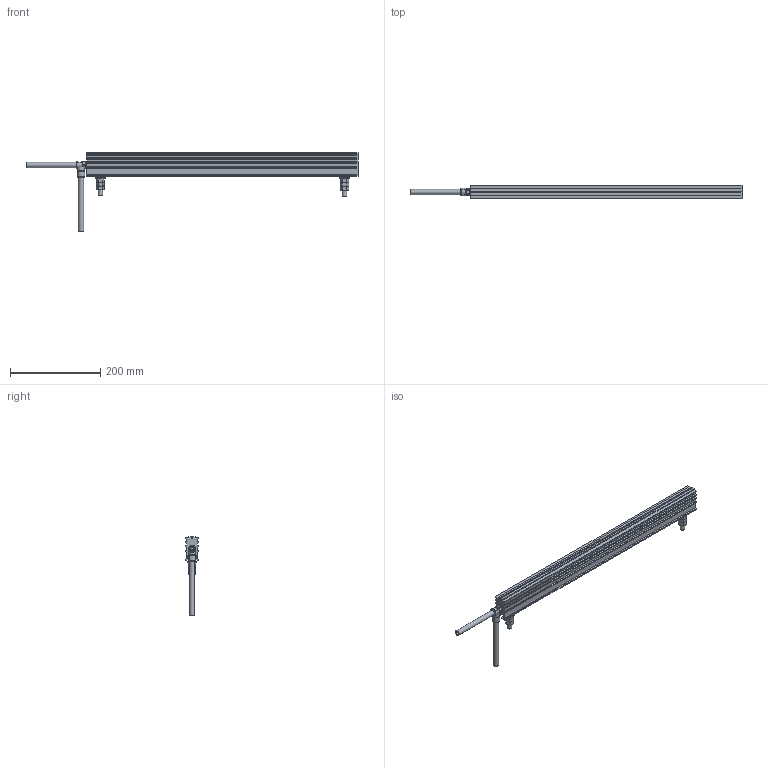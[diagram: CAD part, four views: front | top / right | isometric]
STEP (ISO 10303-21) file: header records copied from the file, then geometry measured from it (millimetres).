
FILE_DESCRIPTION(/* description */ (''),/* implementation_level */ '2;1');
FILE_NAME(/* name */ 'HDC-HDR_3D_GB',/* time_stamp */ '2021-11-15T14:39:37+01:00',/* author */ (''),/* organization */ (''),/* preprocessor_version */ 'ST-DEVELOPER v16.5',/* originating_system */ 'HiCAD 2018 2302.0 Build 339',/* authorisation */ '');
FILE_SCHEMA (('AUTOMOTIVE_DESIGN { 1 0 10303 214 1 1 1 1 }'));
Length unit declared in the file: millimetre
Products named in the file (23): Root; SIMCO_HDC-HDR; MOUNTING_BOLT; GLAND; HDC-HDR; GLAND_RA; CABLE; GEWINDE; M10-WASHER; M10-NUT
Assembly tree (22 placements, depth 3):
  Root
    SIMCO_HDC-HDR
      MOUNTING_BOLT
      MOUNTING_BOLT
      GLAND
      HDC-HDR
      GLAND_RA
      CABLE
      GEWINDE
      M10-WASHER
      M10-NUT
      GEWINDE
      M10-NUT
      M10-NUT
      GEWINDE
      GEWINDE
      M10-WASHER
      M10-NUT
      M10-NUT
      M10-NUT
      GEWINDE
      GEWINDE
      CABLE
Bounding box: 734.4 x 28.8 x 173.85 mm (x, y, z)
Volume: 711213.4 mm3; surface area: 182309.9 mm2
Topology: 21 solids, 21 shells, 250 faces, 625 edges, 411 vertices
Faces by surface type: plane 159, cylinder 47, cone 40, torus 2, sphere 2
Full cylindrical faces by diameter (mm): 1.42 x2, 6 x2, 8 x3, 8.16 x8, 10 x14, 10.5 x2, 11.5 x2, 12 x3, 15 x2, 16.5 x4, 21 x2
Entity records: 12648 total; most frequent: CARTESIAN_POINT 2908, DIRECTION 1126, PRESENTATION_STYLE_ASSIGNMENT 1016, OVER_RIDING_STYLED_ITEM 995, DRAUGHTING_PRE_DEFINED_CURVE_FONT 984, CURVE_STYLE 984, ORIENTED_EDGE 984, EDGE_CURVE 492
